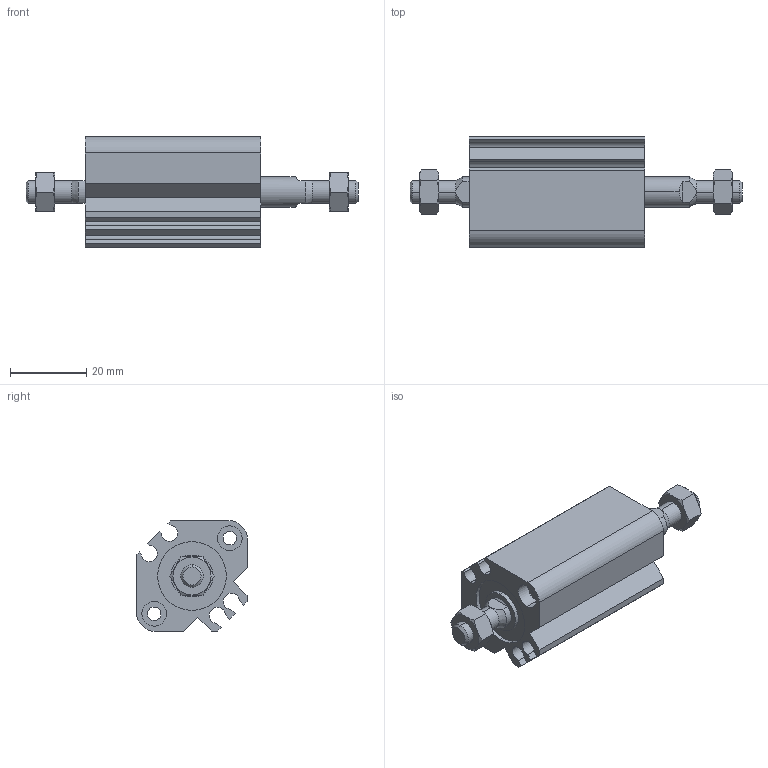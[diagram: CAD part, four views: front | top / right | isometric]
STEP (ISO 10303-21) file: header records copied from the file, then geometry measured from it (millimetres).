
FILE_DESCRIPTION (( 'STEP AP203' ), '1' );
FILE_NAME ('CCMB16-10M-P.STEP', '2020-08-10T11:05:31', ( '' ), ( '' ), 'SwSTEP 2.0', 'SolidWorks 2019', '' );
FILE_SCHEMA (( 'CONFIG_CONTROL_DESIGN' ));
Length unit declared in the file: millimetre
Products named in the file (1): CCMB16-10M-P
Bounding box: 87 x 29 x 29 mm (x, y, z)
Volume: 29630 mm3; surface area: 14944.7 mm2
Topology: 4 solids, 4 shells, 166 faces, 384 edges, 240 vertices
Faces by surface type: plane 66, cylinder 56, cone 44
Entity records: 5239 total; most frequent: CARTESIAN_POINT 1379, DIRECTION 806, ORIENTED_EDGE 768, EDGE_CURVE 384, AXIS2_PLACEMENT_3D 319, VERTEX_POINT 240, EDGE_LOOP 190, VECTOR 168
